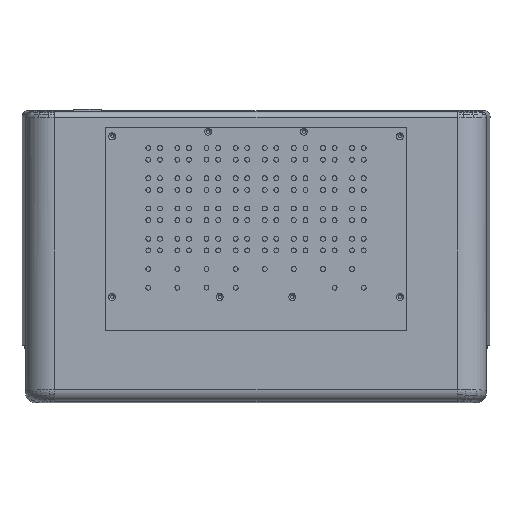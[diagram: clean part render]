
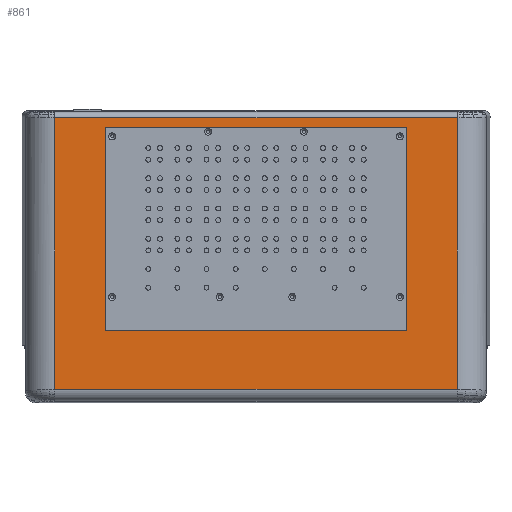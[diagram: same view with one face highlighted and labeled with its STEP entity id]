
A CAD part, top view. The second image highlights one B-rep face of the part: STEP entity #861.
In plain terms, the highlighted planar face has unit normal (0, 0, 1).
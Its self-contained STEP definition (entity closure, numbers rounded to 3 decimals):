
#861 = ADVANCED_FACE( '    Face', ( #2457, #2458 ), #2459, .T. );
#2457 = FACE_BOUND( '', #5355, .T. );
#2458 = FACE_OUTER_BOUND( '', #5356, .T. );
#2459 = PLANE( '', #5357 );
#5355 = EDGE_LOOP( '', ( #8636, #8637, #8638, #8639 ) );
#5356 = EDGE_LOOP( '', ( #8640, #8641, #8642, #8643 ) );
#5357 = AXIS2_PLACEMENT_3D( '', #8644, #8645, #8646 );
#8636 = ORIENTED_EDGE( '', *, *, #10665, .T. );
#8637 = ORIENTED_EDGE( '', *, *, #10666, .T. );
#8638 = ORIENTED_EDGE( '', *, *, #9918, .T. );
#8639 = ORIENTED_EDGE( '', *, *, #10667, .T. );
#8640 = ORIENTED_EDGE( '', *, *, #10668, .F. );
#8641 = ORIENTED_EDGE( '', *, *, #10669, .F. );
#8642 = ORIENTED_EDGE( '', *, *, #10622, .T. );
#8643 = ORIENTED_EDGE( '', *, *, #10637, .F. );
#8644 = CARTESIAN_POINT( '', ( 391.319, 256.747, 52. ) );
#8645 = DIRECTION( '', ( 0., 0., 1. ) );
#8646 = DIRECTION( '', ( -1., 0., 0. ) );
#9918 = EDGE_CURVE( '', #11013, #11014, #11015, .T. );
#10622 = EDGE_CURVE( '', #12229, #11355, #12230, .T. );
#10637 = EDGE_CURVE( '', #12245, #11355, #12247, .T. );
#10665 = EDGE_CURVE( '', #12281, #12282, #12283, .F. );
#10666 = EDGE_CURVE( '', #12282, #11013, #12284, .T. );
#10667 = EDGE_CURVE( '', #11014, #12281, #12285, .F. );
#10668 = EDGE_CURVE( '', #12286, #12245, #12287, .T. );
#10669 = EDGE_CURVE( '', #12229, #12286, #12288, .T. );
#11013 = VERTEX_POINT( '', #12688 );
#11014 = VERTEX_POINT( '', #12689 );
#11015 = LINE( '', #12690, #12691 );
#11355 = VERTEX_POINT( '', #13219 );
#12229 = VERTEX_POINT( '', #14481 );
#12230 = LINE( '', #14482, #14483 );
#12245 = VERTEX_POINT( '', #14521 );
#12247 = LINE( '', #14534, #14535 );
#12281 = VERTEX_POINT( '', #14661 );
#12282 = VERTEX_POINT( '', #14662 );
#12283 = LINE( '', #14663, #14664 );
#12284 = LINE( '', #14665, #14666 );
#12285 = LINE( '', #14667, #14668 );
#12286 = VERTEX_POINT( '', #14669 );
#12287 = LINE( '', #14670, #14671 );
#12288 = LINE( '', #14672, #14673 );
#12688 = CARTESIAN_POINT( '', ( 330.5, 62., 52. ) );
#12689 = CARTESIAN_POINT( '', ( 71.5, 62., 52. ) );
#12690 = CARTESIAN_POINT( '', ( 391.319, 62., 52. ) );
#12691 = VECTOR( '', #15355, 1000. );
#13219 = CARTESIAN_POINT( '', ( 27.983, 245.074, 52. ) );
#14481 = CARTESIAN_POINT( '', ( 374.017, 245.074, 52. ) );
#14482 = CARTESIAN_POINT( '', ( 391.319, 245.074, 52. ) );
#14483 = VECTOR( '', #16607, 1000. );
#14521 = CARTESIAN_POINT( '', ( 27.983, 11.613, 51.998 ) );
#14534 = CARTESIAN_POINT( '', ( 27.983, 205.447, 52. ) );
#14535 = VECTOR( '', #16614, 1000. );
#14661 = CARTESIAN_POINT( '', ( 71.5, 237., 52. ) );
#14662 = CARTESIAN_POINT( '', ( 330.5, 237., 52. ) );
#14663 = CARTESIAN_POINT( '', ( 391.319, 237., 52. ) );
#14664 = VECTOR( '', #16626, 1000. );
#14665 = CARTESIAN_POINT( '', ( 330.5, 256.747, 52. ) );
#14666 = VECTOR( '', #16627, 1000. );
#14667 = CARTESIAN_POINT( '', ( 71.5, 256.747, 52. ) );
#14668 = VECTOR( '', #16628, 1000. );
#14669 = CARTESIAN_POINT( '', ( 374.017, 11.613, 52. ) );
#14670 = CARTESIAN_POINT( '', ( 86.809, 11.613, 52. ) );
#14671 = VECTOR( '', #16629, 1000. );
#14672 = CARTESIAN_POINT( '', ( 374.017, 50.361, 52. ) );
#14673 = VECTOR( '', #16630, 1000. );
#15355 = DIRECTION( '', ( -1., 0., 0. ) );
#16607 = DIRECTION( '', ( -1., 0., 0. ) );
#16614 = DIRECTION( '', ( 0., 1., 0. ) );
#16626 = DIRECTION( '', ( -1., 0., 0. ) );
#16627 = DIRECTION( '', ( 0., -1., 0. ) );
#16628 = DIRECTION( '', ( 0., -1., 0. ) );
#16629 = DIRECTION( '', ( -1., 0., 0. ) );
#16630 = DIRECTION( '', ( 0., -1., 0. ) );
